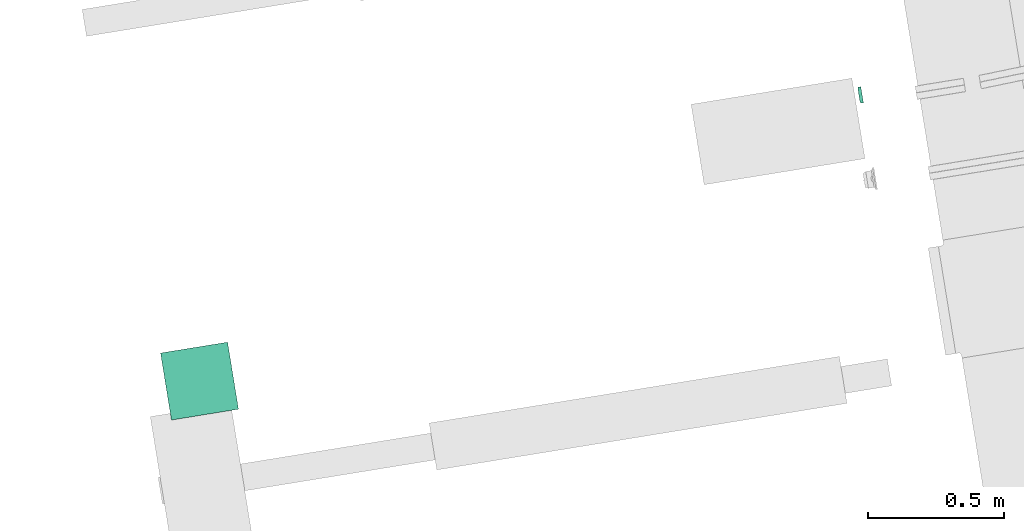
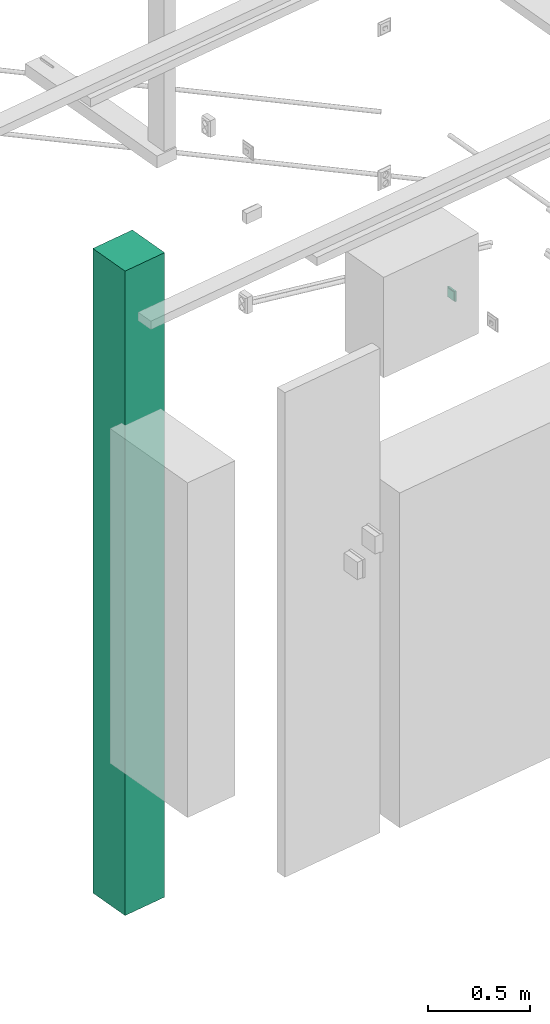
# One storey, part 7 of 33: 1 flow segment, 1 flow terminal.
"""IFC2X3 building model written with IfcOpenShell, lengths in millimetres."""

from ifc_helpers import new_model, entity, si_unit, converted_unit, derived_unit, direction, frame, origin, origin_with_axes, origin_2d_with_axis, place, context, subcontext, project, spatial, rectangle, extrude, faceted_brep, source, transform, mapped, material, type_object, element, save


model = new_model("IFC2X3")

# Units and contexts
plan_context = context("Plan", 3, precision=1e-05, world=origin_with_axes())
model_context = context("Model", 3, precision=0.01, world=origin(), true_north=direction((6.12323399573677e-17, 1.0)))
body_context = subcontext(model_context, "Body", "Model", "MODEL_VIEW")
ifc_project = project(units=[converted_unit("PLANEANGLEUNIT", "DEGREE", entity("IfcPositiveLengthMeasure", 0.0174532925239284), si_unit("PLANEANGLEUNIT", "RADIAN"), dimensions=[0, 0, 0, 0, 0, 0, 0]), si_unit("AREAUNIT", "SQUARE_METRE"), si_unit("LENGTHUNIT", "METRE", prefix="MILLI"), si_unit("MASSUNIT", "GRAM", prefix="KILO"), si_unit("POWERUNIT", "WATT"), si_unit("PRESSUREUNIT", "PASCAL", prefix="KILO"), si_unit("FORCEUNIT", "NEWTON", prefix="KILO"), si_unit("ELECTRICVOLTAGEUNIT", "VOLT"), si_unit("ELECTRICCURRENTUNIT", "AMPERE"), si_unit("THERMODYNAMICTEMPERATUREUNIT", "DEGREE_CELSIUS"), si_unit("TIMEUNIT", "SECOND"), si_unit("VOLUMEUNIT", "CUBIC_METRE"), derived_unit("LINEARVELOCITYUNIT", [(si_unit("LENGTHUNIT", "METRE"), 1), (si_unit("TIMEUNIT", "SECOND"), -1)]), derived_unit("VOLUMETRICFLOWRATEUNIT", [(si_unit("VOLUMEUNIT", "CUBIC_METRE"), 1), (si_unit("TIMEUNIT", "SECOND"), -1)]), derived_unit("THERMALTRANSMITTANCEUNIT", [(si_unit("POWERUNIT", "WATT"), 1), (si_unit("THERMODYNAMICTEMPERATUREUNIT", "KELVIN"), -1), (si_unit("AREAUNIT", "SQUARE_METRE"), -1)]), derived_unit("SOUNDPRESSUREUNIT", [(si_unit("PRESSUREUNIT", "PASCAL"), 1)])], contexts=[model_context, plan_context])

# Site, building, storey
site_placement = place(None, frame((-0.219946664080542, 0.12226179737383, 0.0), z_axis=(0.0, 0.0, 1.0), x_axis=(-0.160236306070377, 0.987078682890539, 0.0)))
site = spatial("IfcSite", under=ifc_project, at=site_placement, Name="Default", CompositionType="ELEMENT")
building_placement = place(site_placement, origin_with_axes())
building = spatial("IfcBuilding", under=site, at=building_placement, CompositionType="ELEMENT")
storey_placement = place(building_placement, frame((0.0, 0.0, 59000.0), z_axis=(0.0, 0.0, 1.0), x_axis=(1.0, 0.0, 0.0)))
storey = spatial("IfcBuildingStorey", under=building, at=storey_placement, Name="Nivå F", CompositionType="ELEMENT", Elevation=59000.0)

# Flow terminal
ifc_material = material(Name="<Unnamed>")
electric_appliance_type = type_object("IfcElectricApplianceType", Name="BUS Vippe enkel:Switch with one push button", PredefinedType="NOTDEFINED", material=ifc_material)
shared_shape = source(origin(), body_context, "Body", "SweptSolid", [
    extrude(rectangle(XDim=59.9999999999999, YDim=9.99999999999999, at=origin_2d_with_axis()), frame((0.0, 5.0, -30.0)), (0.0, 0.0, 1.0), 59.9999999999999),
    extrude(rectangle(XDim=51.9999999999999, YDim=2.0, at=origin_2d_with_axis()), frame((0.0, 11.0, -26.0)), (0.0, 0.0, 1.0), 51.9999999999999),
])
flow_terminal_placement = place(storey_placement, frame((768877.619644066, -503829.829552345, 1100.0), z_axis=(0.0, 0.0, 1.0), x_axis=(1.0, 0.0, 0.0)))
element("IfcFlowTerminal", 1, at=flow_terminal_placement, inside=storey, type_object=electric_appliance_type, material=ifc_material, Name="BUS Vippe enkel:Switch with one push button", ObjectType="BUS Vippe enkel:Switch with one push button", context=body_context, shape_type="MappedRepresentation", body=[
    mapped(shared_shape, transform((0.0, 0.0, 0.0), scale=1.0)),
])

# Flow segment
cable_carrier_segment_type = type_object("IfcCableCarrierSegmentType", Name="Cable Tray with Fittings:Strømskinne", PredefinedType="CABLETRAYSEGMENT")
flow_segment_placement = place(storey_placement, origin_with_axes())
element("IfcFlowSegment", 2, at=flow_segment_placement, inside=storey, type_object=cable_carrier_segment_type, Name="Cable Tray with Fittings:Strømskinne", ObjectType="Cable Tray with Fittings:Strømskinne", context=body_context, shape_type="Brep", body=[
    faceted_brep([(768102.619644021, -501377.480498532, -1000.0000000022), (768102.619644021, -501127.480498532, -1000.0000000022), (768102.619644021, -501127.480498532, 2850.0), (768102.619644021, -501377.480498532, 2850.0), (768352.619644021, -501377.480498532, -1000.0000000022), (768352.619644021, -501377.480498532, 2850.0), (768352.619644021, -501127.480498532, -1000.0000000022), (768352.619644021, -501127.480498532, 2850.0)], [[[0, 1, 2, 3]], [[4, 0, 3, 5]], [[6, 4, 5, 7]], [[1, 6, 7, 2]], [[3, 2, 7, 5]], [[4, 6, 1, 0]]], orient=[[False], [False], [False], [False], [False], [False]]),
])

save(model, "model.ifc")
